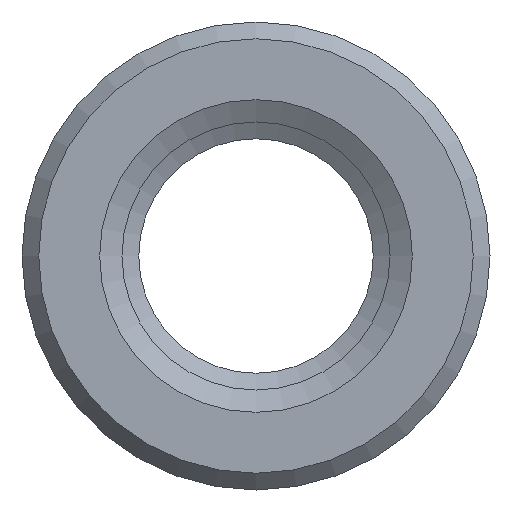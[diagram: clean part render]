
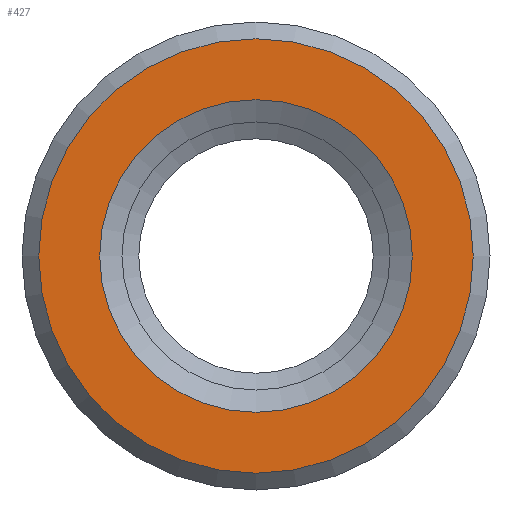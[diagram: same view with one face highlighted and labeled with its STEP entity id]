
A CAD part, left-side view. The second image highlights one B-rep face of the part: STEP entity #427.
In plain terms, the highlighted planar face has unit normal (-1, 0, 0).
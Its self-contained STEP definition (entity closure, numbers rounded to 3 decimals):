
#27=FACE_BOUND('',#135,.T.);
#68=CIRCLE('',#483,14.);
#69=CIRCLE('',#485,19.455);
#98=FACE_OUTER_BOUND('',#134,.T.);
#134=EDGE_LOOP('',(#352));
#135=EDGE_LOOP('',(#353));
#221=VERTEX_POINT('',#752);
#222=VERTEX_POINT('',#755);
#275=EDGE_CURVE('',#221,#221,#68,.T.);
#276=EDGE_CURVE('',#222,#222,#69,.T.);
#352=ORIENTED_EDGE('',*,*,#276,.F.);
#353=ORIENTED_EDGE('',*,*,#275,.T.);
#402=PLANE('',#484);
#427=ADVANCED_FACE('',(#98,#27),#402,.T.);
#483=AXIS2_PLACEMENT_3D('',#753,#610,#611);
#484=AXIS2_PLACEMENT_3D('',#754,#612,#613);
#485=AXIS2_PLACEMENT_3D('',#756,#614,#615);
#610=DIRECTION('center_axis',(1.,0.,0.));
#611=DIRECTION('ref_axis',(0.,1.,0.));
#612=DIRECTION('center_axis',(-1.,0.,0.));
#613=DIRECTION('ref_axis',(0.,0.,1.));
#614=DIRECTION('center_axis',(1.,0.,0.));
#615=DIRECTION('ref_axis',(0.,1.,0.));
#752=CARTESIAN_POINT('',(-21.5,14.,0.));
#753=CARTESIAN_POINT('Origin',(-21.5,0.,0.));
#754=CARTESIAN_POINT('Origin',(-21.5,16.728,0.));
#755=CARTESIAN_POINT('',(-21.5,19.455,0.));
#756=CARTESIAN_POINT('Origin',(-21.5,0.,0.));
